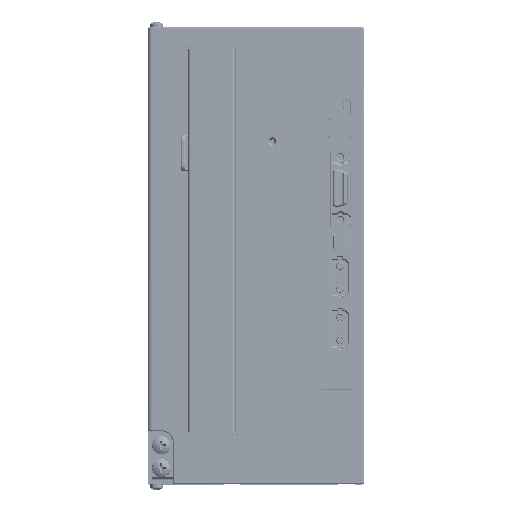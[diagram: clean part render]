
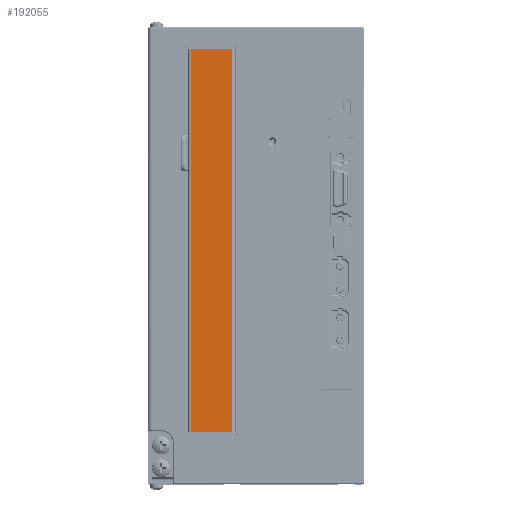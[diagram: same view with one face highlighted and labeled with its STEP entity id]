
A CAD part, top view. The second image highlights one B-rep face of the part: STEP entity #192055.
In plain terms, the highlighted planar face has unit normal (0, 0, 1).
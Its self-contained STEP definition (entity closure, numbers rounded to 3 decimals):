
#13512 = CARTESIAN_POINT ( 'NONE',  ( 58.444, 22.7, 14.7 ) ) ;
#21721 = VERTEX_POINT ( 'NONE', #258522 ) ;
#31640 = EDGE_CURVE ( 'NONE', #21721, #86811, #129716, .T. ) ;
#33087 = DIRECTION ( 'NONE',  ( -1., 0., 0. ) ) ;
#35021 = VECTOR ( 'NONE', #98529, 1000. ) ;
#45426 = FACE_OUTER_BOUND ( 'NONE', #146863, .T. ) ;
#67258 = DIRECTION ( 'NONE',  ( 0., 1., 0. ) ) ;
#86811 = VERTEX_POINT ( 'NONE', #361876 ) ;
#98529 = DIRECTION ( 'NONE',  ( 0., -1., 0. ) ) ;
#114985 = DIRECTION ( 'NONE',  ( 1., 0., 0. ) ) ;
#119632 = LINE ( 'NONE', #125332, #247678 ) ;
#125332 = CARTESIAN_POINT ( 'NONE',  ( 58.444, 22.7, 14.7 ) ) ;
#129716 = LINE ( 'NONE', #13512, #278560 ) ;
#143954 = VECTOR ( 'NONE', #33087, 1000. ) ;
#146863 = EDGE_LOOP ( 'NONE', ( #317704, #343571, #204935, #359507 ) ) ;
#150921 = LINE ( 'NONE', #183802, #35021 ) ;
#161915 = VERTEX_POINT ( 'NONE', #298257 ) ;
#163539 = PLANE ( 'NONE',  #192939 ) ;
#183802 = CARTESIAN_POINT ( 'NONE',  ( 76.544, 22.7, 14.7 ) ) ;
#190270 = EDGE_CURVE ( 'NONE', #86811, #161915, #119632, .T. ) ;
#192055 = ADVANCED_FACE ( 'NONE', ( #45426 ), #163539, .F. ) ;
#192939 = AXIS2_PLACEMENT_3D ( 'NONE', #347355, #256437, #114985 ) ;
#204935 = ORIENTED_EDGE ( 'NONE', *, *, #224104, .T. ) ;
#224104 = EDGE_CURVE ( 'NONE', #304598, #161915, #358358, .T. ) ;
#244090 = CARTESIAN_POINT ( 'NONE',  ( 58.444, 190.3, 14.7 ) ) ;
#247678 = VECTOR ( 'NONE', #67258, 1000. ) ;
#251673 = DIRECTION ( 'NONE',  ( -1., 0., 0. ) ) ;
#256437 = DIRECTION ( 'NONE',  ( 0., 0., -1. ) ) ;
#258522 = CARTESIAN_POINT ( 'NONE',  ( 76.544, 22.7, 14.7 ) ) ;
#268812 = EDGE_CURVE ( 'NONE', #304598, #21721, #150921, .T. ) ;
#278560 = VECTOR ( 'NONE', #251673, 1000. ) ;
#298257 = CARTESIAN_POINT ( 'NONE',  ( 58.444, 190.3, 14.7 ) ) ;
#304598 = VERTEX_POINT ( 'NONE', #354738 ) ;
#317704 = ORIENTED_EDGE ( 'NONE', *, *, #31640, .F. ) ;
#343571 = ORIENTED_EDGE ( 'NONE', *, *, #268812, .F. ) ;
#347355 = CARTESIAN_POINT ( 'NONE',  ( 58.444, 22.7, 14.7 ) ) ;
#354738 = CARTESIAN_POINT ( 'NONE',  ( 76.544, 190.3, 14.7 ) ) ;
#358358 = LINE ( 'NONE', #244090, #143954 ) ;
#359507 = ORIENTED_EDGE ( 'NONE', *, *, #190270, .F. ) ;
#361876 = CARTESIAN_POINT ( 'NONE',  ( 58.444, 22.7, 14.7 ) ) ;
